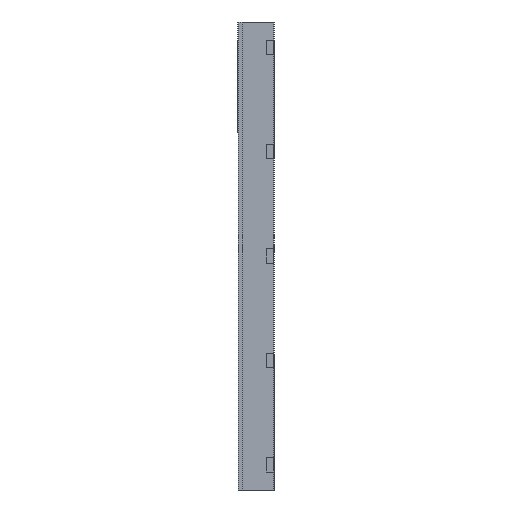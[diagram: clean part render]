
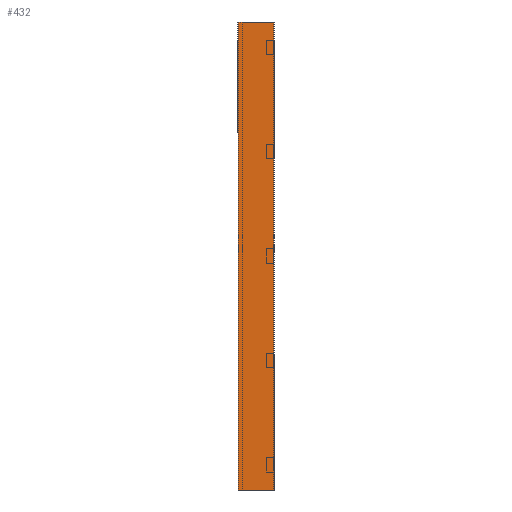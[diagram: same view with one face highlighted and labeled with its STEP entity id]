
A CAD part, left-side view. The second image highlights one B-rep face of the part: STEP entity #432.
In plain terms, the highlighted planar face has unit normal (-1, 0, 0).
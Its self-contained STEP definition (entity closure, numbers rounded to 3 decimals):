
#18 = CARTESIAN_POINT ( 'NONE',  ( 0., 100., -1300. ) ) ;
#33 = LINE ( 'NONE', #18, #1183 ) ;
#175 = EDGE_CURVE ( 'NONE', #444, #1399, #33, .T. ) ;
#203 = VECTOR ( 'NONE', #210, 1000. ) ;
#210 = DIRECTION ( 'NONE',  ( 0., -1., 0. ) ) ;
#219 = VECTOR ( 'NONE', #315, 1000. ) ;
#279 = FACE_OUTER_BOUND ( 'NONE', #378, .T. ) ;
#290 = EDGE_CURVE ( 'NONE', #1399, #612, #850, .T. ) ;
#307 = LINE ( 'NONE', #957, #219 ) ;
#315 = DIRECTION ( 'NONE',  ( 0., 0., 1. ) ) ;
#378 = EDGE_LOOP ( 'NONE', ( #1074, #1186, #663, #1320 ) ) ;
#418 = DIRECTION ( 'NONE',  ( 0., 0., 1. ) ) ;
#432 = ADVANCED_FACE ( 'NONE', ( #279 ), #939, .T. ) ;
#444 = VERTEX_POINT ( 'NONE', #1364 ) ;
#484 = CARTESIAN_POINT ( 'NONE',  ( 0., 0., 0. ) ) ;
#552 = DIRECTION ( 'NONE',  ( 0., -1., 0. ) ) ;
#572 = CARTESIAN_POINT ( 'NONE',  ( 0., 0., -1300. ) ) ;
#612 = VERTEX_POINT ( 'NONE', #1489 ) ;
#663 = ORIENTED_EDGE ( 'NONE', *, *, #1487, .T. ) ;
#690 = CARTESIAN_POINT ( 'NONE',  ( 0., 100., 0. ) ) ;
#696 = EDGE_CURVE ( 'NONE', #1444, #612, #307, .T. ) ;
#810 = DIRECTION ( 'NONE',  ( -1., 0., 0. ) ) ;
#850 = LINE ( 'NONE', #484, #203 ) ;
#883 = DIRECTION ( 'NONE',  ( 0., 0., 1. ) ) ;
#939 = PLANE ( 'NONE',  #1258 ) ;
#957 = CARTESIAN_POINT ( 'NONE',  ( 0., 0., -1300. ) ) ;
#968 = VECTOR ( 'NONE', #552, 1000. ) ;
#1074 = ORIENTED_EDGE ( 'NONE', *, *, #290, .F. ) ;
#1183 = VECTOR ( 'NONE', #418, 1000. ) ;
#1186 = ORIENTED_EDGE ( 'NONE', *, *, #175, .F. ) ;
#1213 = CARTESIAN_POINT ( 'NONE',  ( 0., 0., -1300. ) ) ;
#1258 = AXIS2_PLACEMENT_3D ( 'NONE', #1607, #810, #883 ) ;
#1320 = ORIENTED_EDGE ( 'NONE', *, *, #696, .T. ) ;
#1364 = CARTESIAN_POINT ( 'NONE',  ( 0., 100., -1300. ) ) ;
#1399 = VERTEX_POINT ( 'NONE', #690 ) ;
#1444 = VERTEX_POINT ( 'NONE', #572 ) ;
#1487 = EDGE_CURVE ( 'NONE', #444, #1444, #1493, .T. ) ;
#1489 = CARTESIAN_POINT ( 'NONE',  ( 0., 0., 0. ) ) ;
#1493 = LINE ( 'NONE', #1213, #968 ) ;
#1607 = CARTESIAN_POINT ( 'NONE',  ( 0., 0., -1300. ) ) ;
